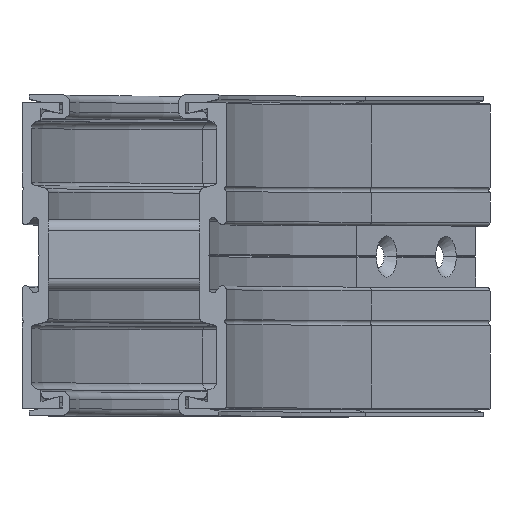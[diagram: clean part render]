
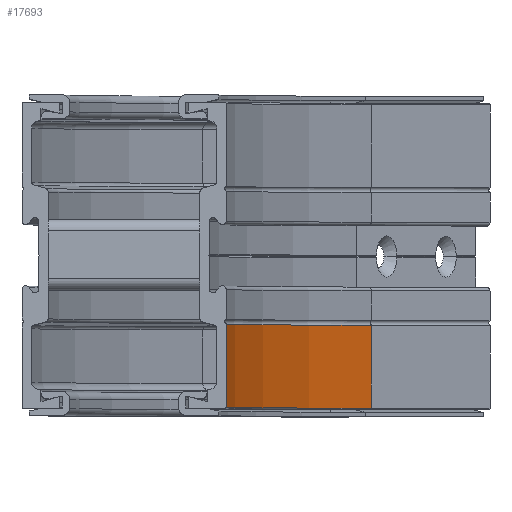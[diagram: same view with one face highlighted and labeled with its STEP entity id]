
A CAD part, top view. The second image highlights one B-rep face of the part: STEP entity #17693.
In plain terms, the highlighted cylindrical face has radius 457 mm (diameter 914 mm), a partial arc.
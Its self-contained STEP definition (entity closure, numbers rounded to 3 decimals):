
#559 = EDGE_CURVE ( 'NONE', #15724, #14269, #3640, .T. ) ;
#560 = EDGE_CURVE ( 'NONE', #15722, #15579, #3636, .T. ) ;
#561 = EDGE_CURVE ( 'NONE', #15724, #15722, #3633, .T. ) ;
#564 = EDGE_CURVE ( 'NONE', #14269, #15579, #3628, .T. ) ;
#919 = AXIS2_PLACEMENT_3D ( 'NONE', #18552, #18551, #18550 ) ;
#922 = AXIS2_PLACEMENT_3D ( 'NONE', #18540, #18538, #18537 ) ;
#1544 = AXIS2_PLACEMENT_3D ( 'NONE', #10944, #10943, #10942 ) ;
#3628 = CIRCLE ( 'NONE', #922, 457. ) ;
#3633 = CIRCLE ( 'NONE', #919, 457. ) ;
#3635 = VECTOR ( 'NONE', #18554, 1000. ) ;
#3636 = LINE ( 'NONE', #18555, #3635 ) ;
#3637 = VECTOR ( 'NONE', #18557, 1000. ) ;
#3640 = LINE ( 'NONE', #18558, #3637 ) ;
#6514 = EDGE_LOOP ( 'NONE', ( #16443, #10429, #10551, #10432 ) ) ;
#8010 = FACE_OUTER_BOUND ( 'NONE', #6514, .T. ) ;
#8011 = CYLINDRICAL_SURFACE ( 'NONE', #1544, 457. ) ;
#10429 = ORIENTED_EDGE ( 'NONE', *, *, #560, .T. ) ;
#10432 = ORIENTED_EDGE ( 'NONE', *, *, #559, .F. ) ;
#10551 = ORIENTED_EDGE ( 'NONE', *, *, #564, .F. ) ;
#10942 = DIRECTION ( 'NONE',  ( 0., 0., 1. ) ) ;
#10943 = DIRECTION ( 'NONE',  ( 0., 1., 0. ) ) ;
#10944 = CARTESIAN_POINT ( 'NONE',  ( 500., 0., -100. ) ) ;
#11729 = CARTESIAN_POINT ( 'NONE',  ( 43., -64., -100. ) ) ;
#12116 = CARTESIAN_POINT ( 'NONE',  ( 104.226, -29.036, -328.5 ) ) ;
#12118 = CARTESIAN_POINT ( 'NONE',  ( 43., -29.036, -100. ) ) ;
#12602 = CARTESIAN_POINT ( 'NONE',  ( 104.226, -64., -328.5 ) ) ;
#14269 = VERTEX_POINT ( 'NONE', #12602 ) ;
#15579 = VERTEX_POINT ( 'NONE', #11729 ) ;
#15722 = VERTEX_POINT ( 'NONE', #12118 ) ;
#15724 = VERTEX_POINT ( 'NONE', #12116 ) ;
#16443 = ORIENTED_EDGE ( 'NONE', *, *, #561, .T. ) ;
#17693 = ADVANCED_FACE ( 'NONE', ( #8010 ), #8011, .F. ) ;
#18537 = DIRECTION ( 'NONE',  ( 0., 0., 1. ) ) ;
#18538 = DIRECTION ( 'NONE',  ( 0., 1., 0. ) ) ;
#18540 = CARTESIAN_POINT ( 'NONE',  ( 500., -64., -100. ) ) ;
#18550 = DIRECTION ( 'NONE',  ( 0., 0., 1. ) ) ;
#18551 = DIRECTION ( 'NONE',  ( 0., 1., 0. ) ) ;
#18552 = CARTESIAN_POINT ( 'NONE',  ( 500., -29.036, -100. ) ) ;
#18554 = DIRECTION ( 'NONE',  ( 0., -1., 0. ) ) ;
#18555 = CARTESIAN_POINT ( 'NONE',  ( 43., -29.036, -100. ) ) ;
#18557 = DIRECTION ( 'NONE',  ( 0., -1., 0. ) ) ;
#18558 = CARTESIAN_POINT ( 'NONE',  ( 104.226, -29.036, -328.5 ) ) ;
